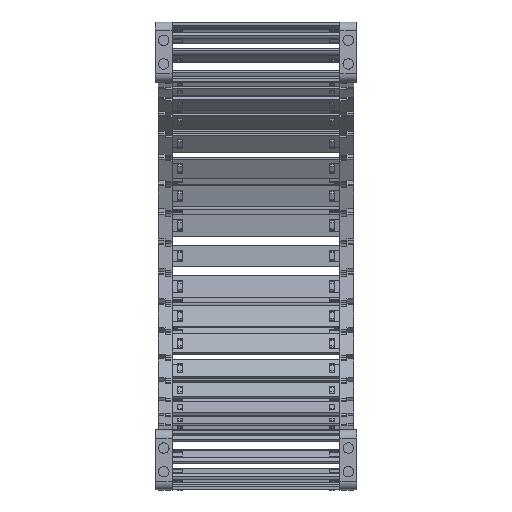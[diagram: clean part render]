
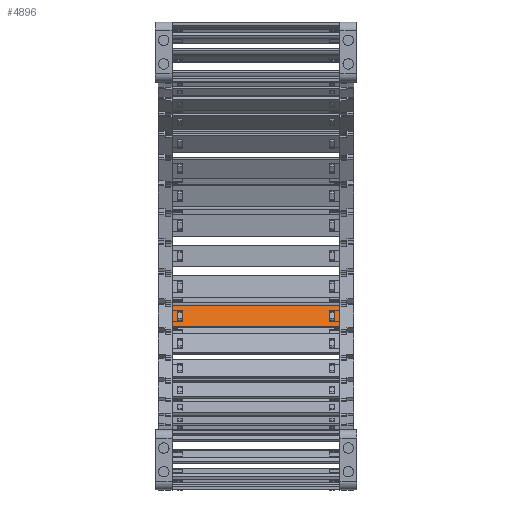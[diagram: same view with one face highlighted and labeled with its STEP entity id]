
A CAD part, left-side view. The second image highlights one B-rep face of the part: STEP entity #4896.
In plain terms, the highlighted planar face has unit normal (-0.94, 0, 0.342) as drawn and (0, 1, 0) by its records, which use the part's own axes.
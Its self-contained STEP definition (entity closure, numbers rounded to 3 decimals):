
#4022=DIRECTION('',(0.,0.,1.));
#4023=VECTOR('',#4022,15.8);
#4024=CARTESIAN_POINT('',(105.74,1.5,-7.9));
#4025=LINE('',#4024,#4023);
#4029=DIRECTION('',(-1.,0.,0.));
#4030=VECTOR('',#4029,120.5);
#4031=CARTESIAN_POINT('',(105.74,1.5,7.9));
#4032=LINE('',#4031,#4030);
#4036=DIRECTION('',(0.,0.,-1.));
#4037=VECTOR('',#4036,15.8);
#4038=CARTESIAN_POINT('',(-14.76,1.5,7.9));
#4039=LINE('',#4038,#4037);
#4043=DIRECTION('',(1.,0.,0.));
#4044=VECTOR('',#4043,3.648);
#4045=CARTESIAN_POINT('',(98.122,1.5,4.075));
#4046=LINE('',#4045,#4044);
#4050=DIRECTION('',(0.,0.,-1.));
#4051=VECTOR('',#4050,8.15);
#4052=CARTESIAN_POINT('',(101.77,1.5,4.075));
#4053=LINE('',#4052,#4051);
#4057=DIRECTION('',(-1.,0.,0.));
#4058=VECTOR('',#4057,3.648);
#4059=CARTESIAN_POINT('',(101.77,1.5,-4.075));
#4060=LINE('',#4059,#4058);
#4064=DIRECTION('',(0.,0.,-1.));
#4065=VECTOR('',#4064,8.15);
#4066=CARTESIAN_POINT('',(-7.142,1.5,4.075));
#4067=LINE('',#4066,#4065);
#4071=DIRECTION('',(-1.,0.,0.));
#4072=VECTOR('',#4071,3.648);
#4073=CARTESIAN_POINT('',(-7.142,1.5,-4.075));
#4074=LINE('',#4073,#4072);
#4078=DIRECTION('',(0.,0.,1.));
#4079=VECTOR('',#4078,8.15);
#4080=CARTESIAN_POINT('',(-10.79,1.5,-4.075));
#4081=LINE('',#4080,#4079);
#4085=DIRECTION('',(1.,0.,0.));
#4086=VECTOR('',#4085,3.648);
#4087=CARTESIAN_POINT('',(-10.79,1.5,4.075));
#4088=LINE('',#4087,#4086);
#4099=DIRECTION('',(-1.,0.,0.));
#4100=VECTOR('',#4099,120.5);
#4101=CARTESIAN_POINT('',(105.74,1.5,-7.9));
#4102=LINE('',#4101,#4100);
#4307=DIRECTION('',(0.,0.,-1.));
#4308=VECTOR('',#4307,8.15);
#4309=CARTESIAN_POINT('',(98.122,1.5,4.075));
#4310=LINE('',#4309,#4308);
#4606=CARTESIAN_POINT('',(101.77,1.5,4.075));
#4607=VERTEX_POINT('',#4606);
#4608=CARTESIAN_POINT('',(98.122,1.5,4.075));
#4609=VERTEX_POINT('',#4608);
#4650=CARTESIAN_POINT('',(98.122,1.5,-4.075));
#4651=VERTEX_POINT('',#4650);
#4652=CARTESIAN_POINT('',(101.77,1.5,-4.075));
#4653=VERTEX_POINT('',#4652);
#4654=CARTESIAN_POINT('',(105.74,1.5,7.9));
#4656=VERTEX_POINT('',#4654);
#4658=CARTESIAN_POINT('',(105.74,1.5,-7.9));
#4659=VERTEX_POINT('',#4658);
#4682=CARTESIAN_POINT('',(-7.142,1.5,4.075));
#4683=CARTESIAN_POINT('',(-7.142,1.5,-4.075));
#4684=VERTEX_POINT('',#4682);
#4685=VERTEX_POINT('',#4683);
#4686=CARTESIAN_POINT('',(-10.79,1.5,-4.075));
#4687=VERTEX_POINT('',#4686);
#4688=CARTESIAN_POINT('',(-10.79,1.5,4.075));
#4689=VERTEX_POINT('',#4688);
#4690=CARTESIAN_POINT('',(-14.76,1.5,7.9));
#4691=VERTEX_POINT('',#4690);
#4694=CARTESIAN_POINT('',(-14.76,1.5,-7.9));
#4695=VERTEX_POINT('',#4694);
#4865=CARTESIAN_POINT('',(137.48,1.5,10.061));
#4866=DIRECTION('',(0.,-1.,0.));
#4867=DIRECTION('',(0.,0.,-1.));
#4868=AXIS2_PLACEMENT_3D('',#4865,#4866,#4867);
#4869=PLANE('',#4868);
#4870=ORIENTED_EDGE('',*,*,#4768,.T.);
#4871=ORIENTED_EDGE('',*,*,#4806,.T.);
#4872=ORIENTED_EDGE('',*,*,#4831,.T.);
#4874=ORIENTED_EDGE('',*,*,#4873,.F.);
#4875=EDGE_LOOP('',(#4870,#4871,#4872,#4874));
#4876=FACE_OUTER_BOUND('',#4875,.F.);
#4878=ORIENTED_EDGE('',*,*,#4877,.F.);
#4879=ORIENTED_EDGE('',*,*,#4707,.T.);
#4881=ORIENTED_EDGE('',*,*,#4880,.T.);
#4883=ORIENTED_EDGE('',*,*,#4882,.T.);
#4884=EDGE_LOOP('',(#4878,#4879,#4881,#4883));
#4885=FACE_BOUND('',#4884,.F.);
#4887=ORIENTED_EDGE('',*,*,#4886,.T.);
#4889=ORIENTED_EDGE('',*,*,#4888,.T.);
#4891=ORIENTED_EDGE('',*,*,#4890,.T.);
#4893=ORIENTED_EDGE('',*,*,#4892,.T.);
#4894=EDGE_LOOP('',(#4887,#4889,#4891,#4893));
#4895=FACE_BOUND('',#4894,.F.);
#4896=ADVANCED_FACE('',(#4876,#4885,#4895),#4869,.F.);
#4707=EDGE_CURVE('',#4609,#4607,#4046,.T.);
#4768=EDGE_CURVE('',#4659,#4656,#4025,.T.);
#4806=EDGE_CURVE('',#4656,#4691,#4032,.T.);
#4831=EDGE_CURVE('',#4691,#4695,#4039,.T.);
#4873=EDGE_CURVE('',#4659,#4695,#4102,.T.);
#4877=EDGE_CURVE('',#4609,#4651,#4310,.T.);
#4880=EDGE_CURVE('',#4607,#4653,#4053,.T.);
#4882=EDGE_CURVE('',#4653,#4651,#4060,.T.);
#4886=EDGE_CURVE('',#4684,#4685,#4067,.T.);
#4888=EDGE_CURVE('',#4685,#4687,#4074,.T.);
#4890=EDGE_CURVE('',#4687,#4689,#4081,.T.);
#4892=EDGE_CURVE('',#4689,#4684,#4088,.T.);
